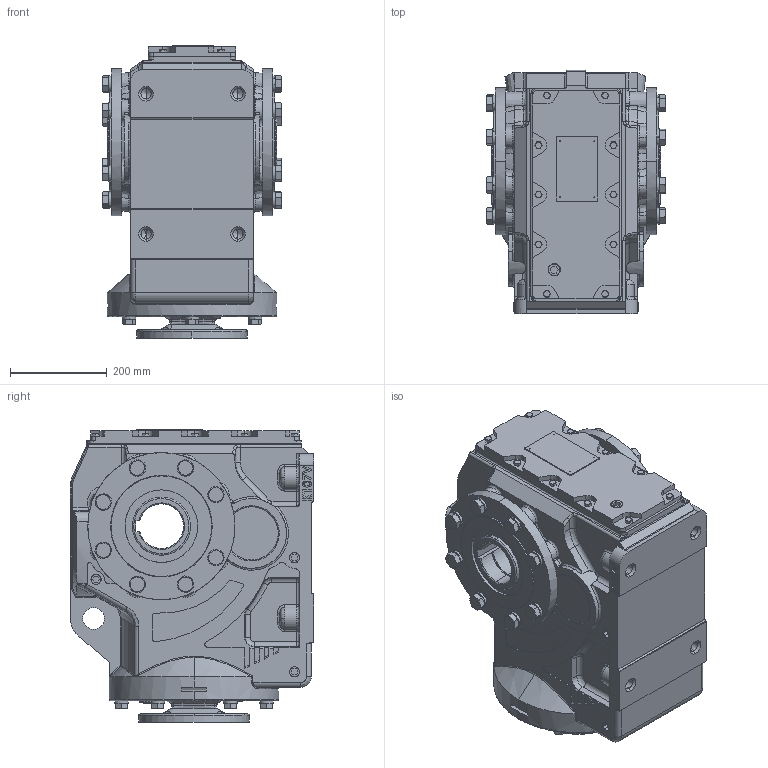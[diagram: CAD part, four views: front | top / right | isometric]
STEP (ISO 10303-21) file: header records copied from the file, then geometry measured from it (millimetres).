
FILE_DESCRIPTION (( 'STEP AP203' ), '1' );
FILE_NAME ('KAN107-182T.STEP', '2023-02-15T07:31:17', ( '' ), ( '' ), 'SwSTEP 2.0', 'SolidWorks 2012', '' );
FILE_SCHEMA (( 'CONFIG_CONTROL_DESIGN' ));
Products named in the file (1): KAN107-182T
Bounding box: 369.2 x 503.5 x 604 mm (x, y, z)
Volume: 65639523.3 mm3; surface area: 1654478.1 mm2
Topology: 1 solids, 56 shells, 2630 faces, 6531 edges, 4058 vertices
Faces by surface type: plane 1071, cylinder 725, cone 432, bspline 402
Entity records: 103676 total; most frequent: CARTESIAN_POINT 43381, ORIENTED_EDGE 12928, DIRECTION 12116, EDGE_CURVE 6464, AXIS2_PLACEMENT_3D 4573, VERTEX_POINT 4058, LINE 2970, VECTOR 2970
